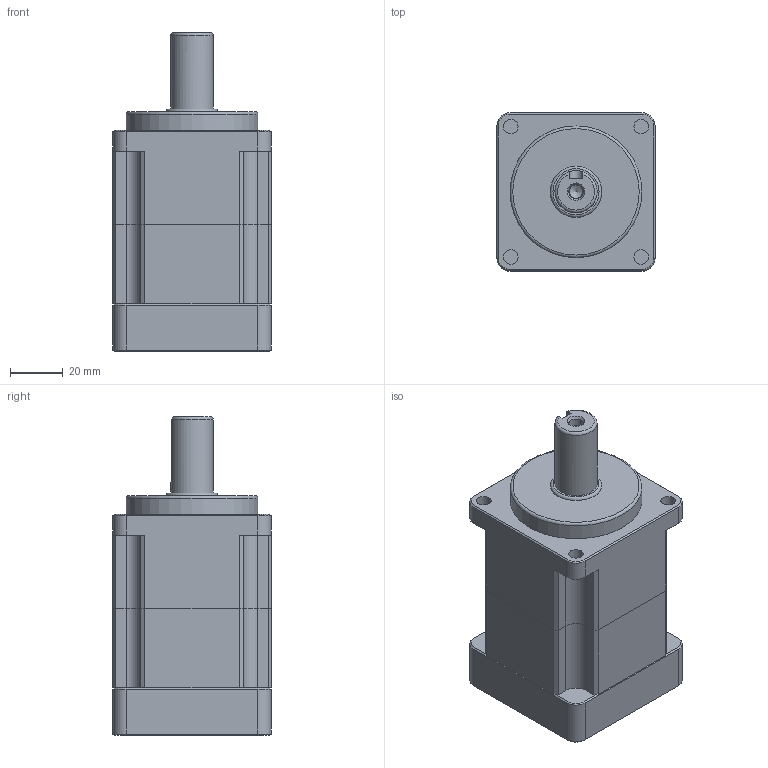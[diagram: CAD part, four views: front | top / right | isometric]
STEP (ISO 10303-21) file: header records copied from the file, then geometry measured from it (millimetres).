
FILE_DESCRIPTION((''),'2;1');
FILE_NAME('\\File-server\연구소\카달로그-전체\카탈로그-2005 신규\카탈로그-국문\PLANETARY GEAR HEAD\SPI060\SPI060S003~010A.stp','2008-09-23T09:12:25',('ji-joe'),(''),'Autodesk Inventor 2009','Autodesk Inventor 2009','');
FILE_SCHEMA(('AUTOMOTIVE_DESIGN { 1 0 10303 214 1 1 1 1 }'));
Length unit declared in the file: millimetre
Products named in the file (4): SPI060 1단; SPI060 앞; SPI060 뒤; SPI060 IN
Assembly tree (3 placements, depth 2):
  SPI060 1단
    SPI060 앞
    SPI060 뒤
    SPI060 IN
Bounding box: 60 x 60 x 121 mm (x, y, z)
Volume: 267516.7 mm3; surface area: 46743.2 mm2
Topology: 3 solids, 3 shells, 143 faces, 374 edges, 241 vertices
Faces by surface type: plane 66, cylinder 40, bspline 20, cone 14, torus 3
Full cylindrical faces by diameter (mm): 14 x1, 16 x1, 17 x1, 47 x1, 50 x1
Entity records: 4600 total; most frequent: CARTESIAN_POINT 1148, DIRECTION 711, ORIENTED_EDGE 660, EDGE_CURVE 330, AXIS2_PLACEMENT_3D 256, VERTEX_POINT 223, VECTOR 199, LINE 199
